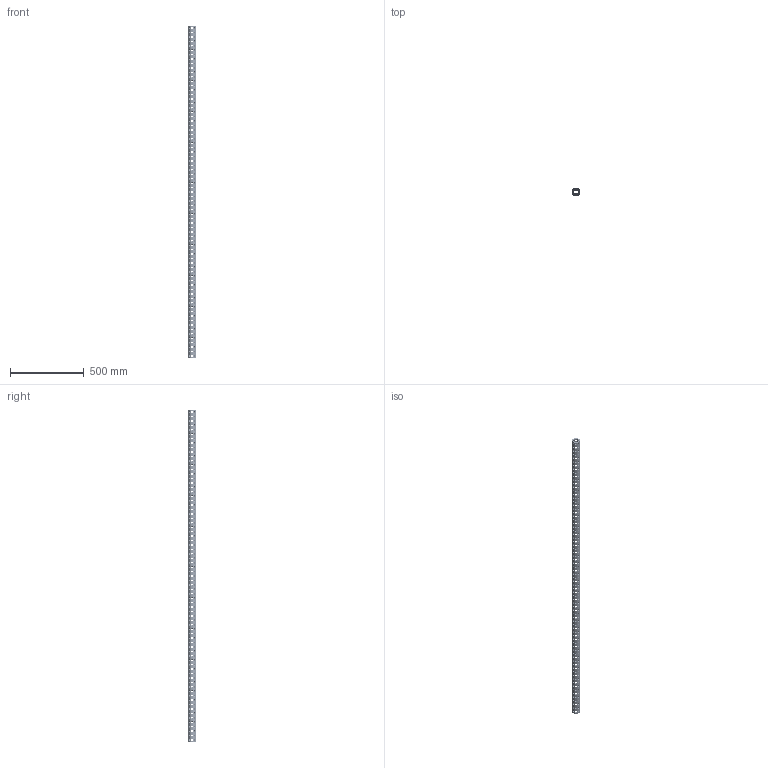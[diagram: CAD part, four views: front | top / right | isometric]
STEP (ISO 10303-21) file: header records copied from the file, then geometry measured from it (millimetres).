
FILE_DESCRIPTION(('CATIA V5 STEP Exchange'),'2;1');
FILE_NAME('U:\Room\唐宝山\EGT002\46-01-010304-01-EGT002-2248.stp','2021-08-24T01:58:37+00:00',('none'),('none'),'CATIA Version 5 Release 21 GA (IN-10)','CATIA V5 STEP AP203','none');
FILE_SCHEMA(('CONFIG_CONTROL_DESIGN'));
Products named in the file (1): 46-01-010304-01-EGT002-2248
Bounding box: 50 x 50 x 2248 mm (x, y, z)
Volume: 1601715.1 mm3; surface area: 771984.5 mm2
Topology: 1 solids, 1 shells, 3084 faces, 8496 edges, 5264 vertices
Faces by surface type: cone 1800, cylinder 1258, plane 26
Entity records: 132320 total; most frequent: CARTESIAN_POINT 58327, ORIENTED_EDGE 16992, DIRECTION 11670, EDGE_CURVE 8496, AXIS2_PLACEMENT_3D 5307, VERTEX_POINT 5264, EDGE_LOOP 4136, VECTOR 3280
